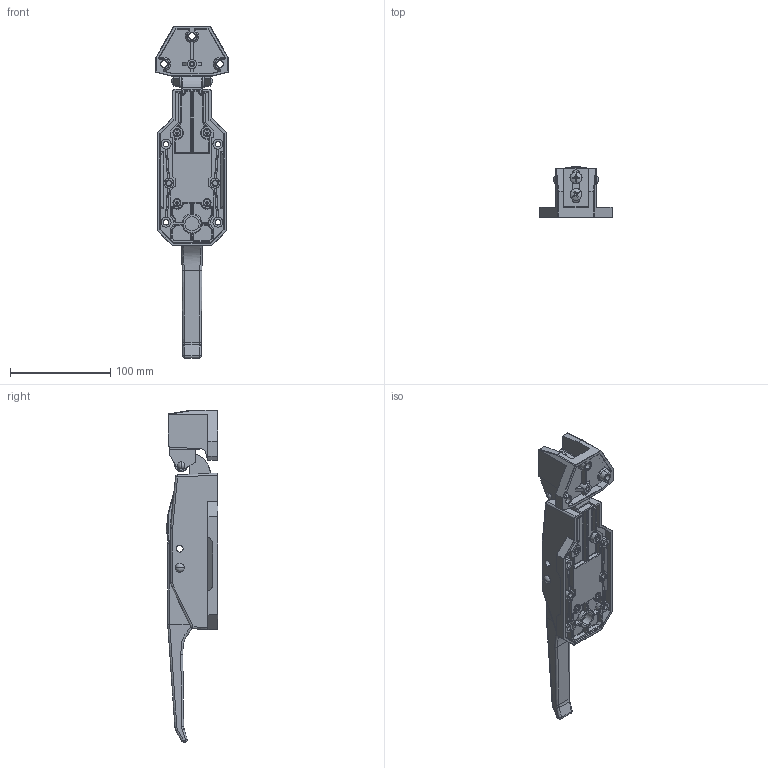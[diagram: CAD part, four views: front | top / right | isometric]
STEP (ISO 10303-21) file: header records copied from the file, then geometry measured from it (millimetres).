
FILE_DESCRIPTION (( 'STEP AP203' ), '1' );
FILE_NAME ('CT-1178_1.STEP', '2019-04-02T05:58:36', ( '' ), ( '' ), 'SwSTEP 2.0', 'SolidWorks 2018', '' );
FILE_SCHEMA (( 'CONFIG_CONTROL_DESIGN' ));
Length unit declared in the file: millimetre
Products named in the file (10): CT-1178 STRIKER BODY; pan head cross recess screw_iso_ISO 7045 - M6 x 20 - Z - 20N; CT-1178-HOUSING; CT-1178-Latch; CT-1178 STRIKER; CT-1178-STRIKER ASSEMBLY; CT-1178-LOCK; CT-1178_1; TS-4752; CT-1178-HANDLE
Assembly tree (11 placements, depth 3):
  CT-1178_1
    CT-1178-LOCK
      CT-1178-HOUSING
      CT-1178-HANDLE
      CT-1178-Latch
    CT-1178-STRIKER ASSEMBLY
      CT-1178 STRIKER BODY
      CT-1178 STRIKER
      TS-4752  x2
      pan head cross recess screw_iso_ISO 7045 - M6 x 20 - Z - 20N  x2
Bounding box: 72 x 51.42 x 331.47 mm (x, y, z)
Volume: 199102.5 mm3; surface area: 122039 mm2
Topology: 15 solids, 15 shells, 1361 faces, 3303 edges, 1906 vertices
Faces by surface type: cylinder 532, plane 431, torus 168, sphere 109, cone 62, bspline 59
Entity records: 39172 total; most frequent: CARTESIAN_POINT 8180, DIRECTION 6631, ORIENTED_EDGE 6086, EDGE_CURVE 3043, AXIS2_PLACEMENT_3D 2547, VERTEX_POINT 1806, VECTOR 1537, LINE 1537
